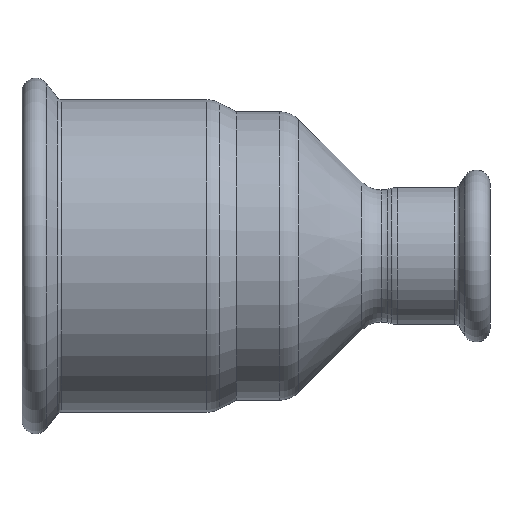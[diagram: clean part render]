
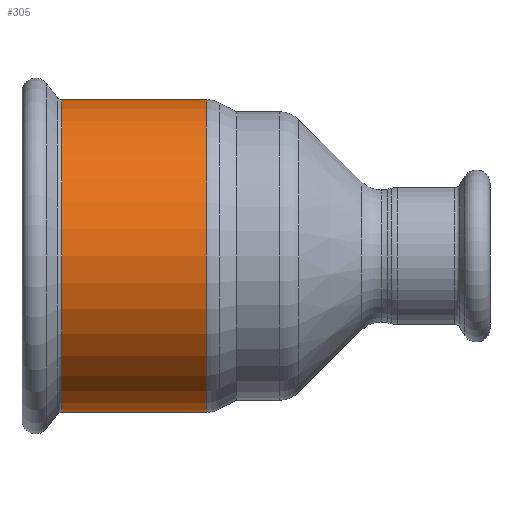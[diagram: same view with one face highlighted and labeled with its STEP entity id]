
A CAD part, front view. The second image highlights one B-rep face of the part: STEP entity #305.
In plain terms, the highlighted cylindrical face has radius 28.7 mm (diameter 57.4 mm), a partial arc.
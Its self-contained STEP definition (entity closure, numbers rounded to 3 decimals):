
#27 = AXIS2_PLACEMENT_3D ( 'NONE', #646, #2730, #1386 ) ;
#42 = VERTEX_POINT ( 'NONE', #1321 ) ;
#78 = VERTEX_POINT ( 'NONE', #607 ) ;
#95 = EDGE_CURVE ( 'NONE', #42, #2833, #254, .T. ) ;
#136 = DIRECTION ( 'NONE',  ( 0., 0., 1. ) ) ;
#215 = CARTESIAN_POINT ( 'NONE',  ( -14.079, 0., -28.7 ) ) ;
#254 = CIRCLE ( 'NONE', #2516, 28.7 ) ;
#305 = ADVANCED_FACE ( 'NONE', ( #1905 ), #2142, .T. ) ;
#371 = CIRCLE ( 'NONE', #27, 28.7 ) ;
#607 = CARTESIAN_POINT ( 'NONE',  ( -14.079, 0., 28.7 ) ) ;
#630 = DIRECTION ( 'NONE',  ( -1., 0., 0. ) ) ;
#646 = CARTESIAN_POINT ( 'NONE',  ( -14.079, 0., 0. ) ) ;
#944 = CARTESIAN_POINT ( 'NONE',  ( -44.93, 0., 28.7 ) ) ;
#945 = DIRECTION ( 'NONE',  ( -1., 0., 0. ) ) ;
#996 = EDGE_CURVE ( 'NONE', #1592, #2833, #1986, .T. ) ;
#1127 = VECTOR ( 'NONE', #2825, 1000. ) ;
#1144 = VECTOR ( 'NONE', #630, 1000. ) ;
#1166 = LINE ( 'NONE', #944, #1127 ) ;
#1321 = CARTESIAN_POINT ( 'NONE',  ( -40.755, 0., 28.7 ) ) ;
#1386 = DIRECTION ( 'NONE',  ( 0., 0., -1. ) ) ;
#1551 = CARTESIAN_POINT ( 'NONE',  ( -44.93, 0., -28.7 ) ) ;
#1592 = VERTEX_POINT ( 'NONE', #215 ) ;
#1785 = EDGE_LOOP ( 'NONE', ( #2927, #2067, #1899, #2659 ) ) ;
#1899 = ORIENTED_EDGE ( 'NONE', *, *, #3008, .T. ) ;
#1905 = FACE_OUTER_BOUND ( 'NONE', #1785, .T. ) ;
#1985 = CARTESIAN_POINT ( 'NONE',  ( -40.755, 0., -28.7 ) ) ;
#1986 = LINE ( 'NONE', #1551, #1144 ) ;
#2067 = ORIENTED_EDGE ( 'NONE', *, *, #2645, .T. ) ;
#2126 = CARTESIAN_POINT ( 'NONE',  ( -44.93, 0., 0. ) ) ;
#2142 = CYLINDRICAL_SURFACE ( 'NONE', #2153, 28.7 ) ;
#2153 = AXIS2_PLACEMENT_3D ( 'NONE', #2126, #945, #2785 ) ;
#2484 = CARTESIAN_POINT ( 'NONE',  ( -40.755, 0., 0. ) ) ;
#2516 = AXIS2_PLACEMENT_3D ( 'NONE', #2484, #2963, #136 ) ;
#2645 = EDGE_CURVE ( 'NONE', #1592, #78, #371, .T. ) ;
#2659 = ORIENTED_EDGE ( 'NONE', *, *, #95, .T. ) ;
#2730 = DIRECTION ( 'NONE',  ( -1., 0., 0. ) ) ;
#2785 = DIRECTION ( 'NONE',  ( 0., 0., 1. ) ) ;
#2825 = DIRECTION ( 'NONE',  ( -1., 0., 0. ) ) ;
#2833 = VERTEX_POINT ( 'NONE', #1985 ) ;
#2927 = ORIENTED_EDGE ( 'NONE', *, *, #996, .F. ) ;
#2963 = DIRECTION ( 'NONE',  ( 1., 0., 0. ) ) ;
#3008 = EDGE_CURVE ( 'NONE', #78, #42, #1166, .T. ) ;
